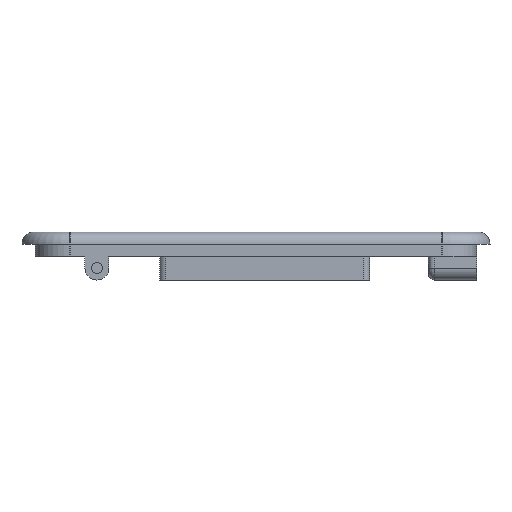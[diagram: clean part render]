
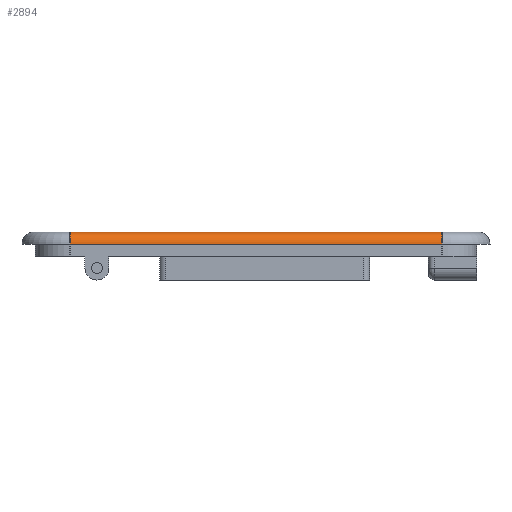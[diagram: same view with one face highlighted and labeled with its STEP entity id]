
A CAD part, front view. The second image highlights one B-rep face of the part: STEP entity #2894.
In plain terms, the highlighted cylindrical face has radius 2 mm (diameter 4 mm), a partial arc.
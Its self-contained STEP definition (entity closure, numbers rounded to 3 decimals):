
#208=LINE('',#5017,#423);
#209=LINE('',#5020,#424);
#423=VECTOR('',#3777,10.);
#424=VECTOR('',#3780,10.);
#568=CYLINDRICAL_SURFACE('',#3156,2.);
#683=FACE_OUTER_BOUND('',#854,.T.);
#854=EDGE_LOOP('',(#2221,#2222,#2223,#2224));
#1058=CIRCLE('',#3154,2.);
#1060=CIRCLE('',#3157,2.);
#1333=VERTEX_POINT('',#4997);
#1334=VERTEX_POINT('',#4999);
#1336=VERTEX_POINT('',#5016);
#1337=VERTEX_POINT('',#5018);
#1669=EDGE_CURVE('',#1333,#1334,#1058,.T.);
#1672=EDGE_CURVE('',#1333,#1336,#208,.T.);
#1673=EDGE_CURVE('',#1336,#1337,#1060,.T.);
#1674=EDGE_CURVE('',#1337,#1334,#209,.T.);
#2221=ORIENTED_EDGE('',*,*,#1669,.F.);
#2222=ORIENTED_EDGE('',*,*,#1672,.T.);
#2223=ORIENTED_EDGE('',*,*,#1673,.T.);
#2224=ORIENTED_EDGE('',*,*,#1674,.T.);
#2894=ADVANCED_FACE('',(#683),#568,.T.);
#3154=AXIS2_PLACEMENT_3D('',#5000,#3771,#3772);
#3156=AXIS2_PLACEMENT_3D('',#5015,#3775,#3776);
#3157=AXIS2_PLACEMENT_3D('',#5019,#3778,#3779);
#3771=DIRECTION('center_axis',(-1.,0.,0.));
#3772=DIRECTION('ref_axis',(0.,-1.,0.));
#3775=DIRECTION('center_axis',(1.,0.,0.));
#3776=DIRECTION('ref_axis',(0.,-0.707,0.707));
#3777=DIRECTION('',(1.,0.,0.));
#3778=DIRECTION('center_axis',(-1.,0.,0.));
#3779=DIRECTION('ref_axis',(0.,-1.,0.));
#3780=DIRECTION('',(-1.,0.,0.));
#4997=CARTESIAN_POINT('',(3.05,-5.,0.));
#4999=CARTESIAN_POINT('',(3.05,-3.,2.));
#5000=CARTESIAN_POINT('Origin',(3.05,-3.,0.));
#5015=CARTESIAN_POINT('Origin',(18.525,-3.,0.));
#5016=CARTESIAN_POINT('',(64.95,-5.,0.));
#5017=CARTESIAN_POINT('',(3.05,-5.,0.));
#5018=CARTESIAN_POINT('',(64.95,-3.,2.));
#5019=CARTESIAN_POINT('Origin',(64.95,-3.,0.));
#5020=CARTESIAN_POINT('',(18.525,-3.,2.));
